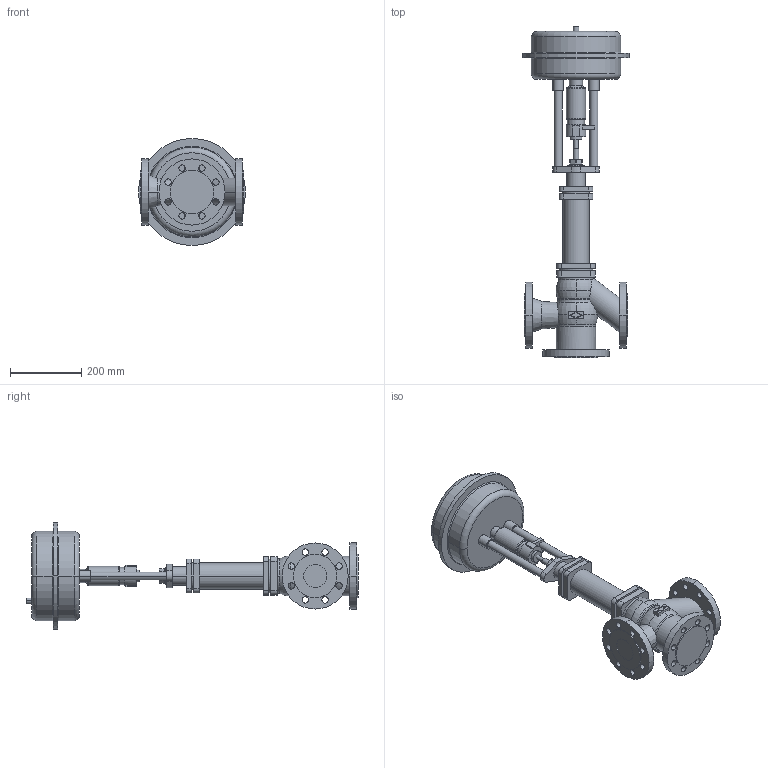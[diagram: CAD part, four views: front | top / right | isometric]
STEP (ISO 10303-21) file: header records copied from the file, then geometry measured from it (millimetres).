
FILE_DESCRIPTION(('OneSpaceDesigner STEP Export'),'2;1');
FILE_NAME('c000000733.stp','2006-09-21T 8:38:24',(''),(''),'OneSpace Designer STEP processor for AP214 (Solid Model)','OneSpace Designer 13.20A 18-Aug-2005 (C) CoCreate Software GmbH','');
FILE_SCHEMA(('AUTOMOTIVE_DESIGN { 1 0 10303 214 1 1 1 1 }'));
Length unit declared in the file: millimetre
Products named in the file (2): 1; 2
Bounding box: 300 x 930.6 x 300 mm (x, y, z)
Volume: 13322295.8 mm3; surface area: 735176.7 mm2
Topology: 2 solids, 2 shells, 281 faces, 709 edges, 466 vertices
Faces by surface type: cylinder 138, plane 101, torus 34, cone 8
Entity records: 7652 total; most frequent: ORIENTED_EDGE 1418, CARTESIAN_POINT 1409, DIRECTION 1136, EDGE_CURVE 709, VERTEX_POINT 466, AXIS2_PLACEMENT_3D 415, EDGE_LOOP 363, VECTOR 306
